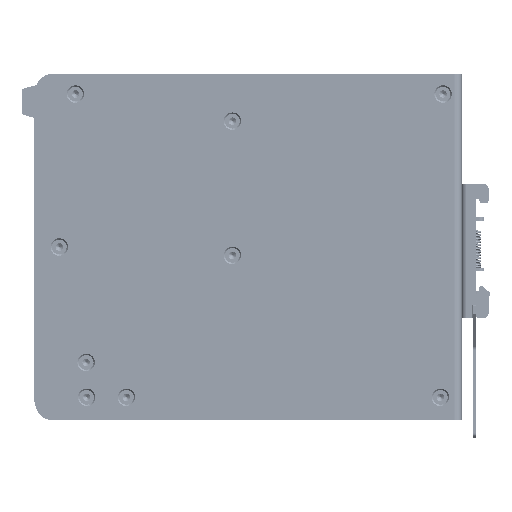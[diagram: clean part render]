
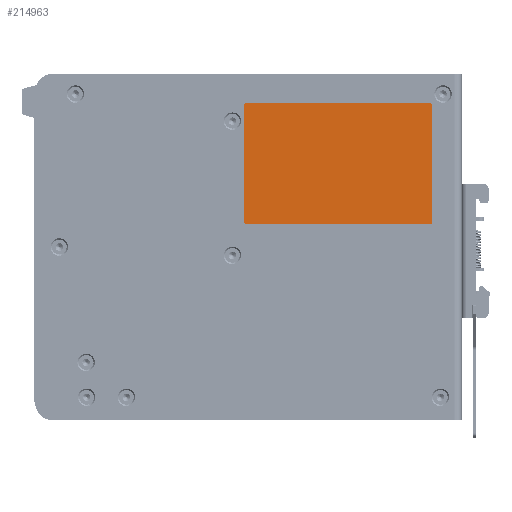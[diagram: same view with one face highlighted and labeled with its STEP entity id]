
A CAD part, front view. The second image highlights one B-rep face of the part: STEP entity #214963.
In plain terms, the highlighted planar face has unit normal (0, -1, 0).
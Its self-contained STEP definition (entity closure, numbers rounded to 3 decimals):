
#10000 = DIRECTION ( 'NONE',  ( 0., 1., 0. ) ) ;
#14277 = ORIENTED_EDGE ( 'NONE', *, *, #456223, .F. ) ;
#22636 = EDGE_CURVE ( 'NONE', #744572, #975812, #1089347, .T. ) ;
#26456 = VERTEX_POINT ( 'NONE', #448684 ) ;
#29635 = AXIS2_PLACEMENT_3D ( 'NONE', #856321, #848555, #1025026 ) ;
#50463 = CARTESIAN_POINT ( 'NONE',  ( -35., 0., -22. ) ) ;
#52338 = EDGE_CURVE ( 'NONE', #776582, #1042366, #681856, .T. ) ;
#57816 = LINE ( 'NONE', #458605, #1011155 ) ;
#66412 = ORIENTED_EDGE ( 'NONE', *, *, #971749, .F. ) ;
#69800 = CARTESIAN_POINT ( 'NONE',  ( 34.5, 0., 22. ) ) ;
#79659 = VECTOR ( 'NONE', #395368, 1000. ) ;
#85237 = CARTESIAN_POINT ( 'NONE',  ( -35., 0., -22. ) ) ;
#94363 = DIRECTION ( 'NONE',  ( -1., 0., 0. ) ) ;
#95995 = DIRECTION ( 'NONE',  ( 0., 0., 1. ) ) ;
#125434 = ORIENTED_EDGE ( 'NONE', *, *, #443872, .F. ) ;
#143740 = CARTESIAN_POINT ( 'NONE',  ( -35., 0., 22. ) ) ;
#165833 = CARTESIAN_POINT ( 'NONE',  ( -34.5, 0., 22.5 ) ) ;
#214963 = ADVANCED_FACE ( 'NONE', ( #314663 ), #895447, .F. ) ;
#218987 = ORIENTED_EDGE ( 'NONE', *, *, #238033, .F. ) ;
#238033 = EDGE_CURVE ( 'NONE', #975812, #844758, #632280, .T. ) ;
#256083 = DIRECTION ( 'NONE',  ( 1., 0., 0. ) ) ;
#258623 = CARTESIAN_POINT ( 'NONE',  ( -34.5, 0., -22.5 ) ) ;
#314663 = FACE_OUTER_BOUND ( 'NONE', #996000, .T. ) ;
#349543 = VERTEX_POINT ( 'NONE', #982347 ) ;
#358199 = DIRECTION ( 'NONE',  ( 0., 1., 0. ) ) ;
#365120 = AXIS2_PLACEMENT_3D ( 'NONE', #1112867, #850090, #936474 ) ;
#365912 = CARTESIAN_POINT ( 'NONE',  ( -34.5, 0., -22. ) ) ;
#370238 = CARTESIAN_POINT ( 'NONE',  ( 34.5, 0., 22. ) ) ;
#395368 = DIRECTION ( 'NONE',  ( 0., 0., 1. ) ) ;
#414454 = ORIENTED_EDGE ( 'NONE', *, *, #22636, .F. ) ;
#417356 = AXIS2_PLACEMENT_3D ( 'NONE', #365912, #358199, #797006 ) ;
#443872 = EDGE_CURVE ( 'NONE', #844758, #349543, #1038095, .T. ) ;
#448684 = CARTESIAN_POINT ( 'NONE',  ( 35., 0., 22. ) ) ;
#448878 = ORIENTED_EDGE ( 'NONE', *, *, #766750, .F. ) ;
#455997 = EDGE_CURVE ( 'NONE', #26456, #776582, #57816, .T. ) ;
#456223 = EDGE_CURVE ( 'NONE', #349543, #26456, #787387, .T. ) ;
#458605 = CARTESIAN_POINT ( 'NONE',  ( 35., 0., 22. ) ) ;
#491571 = VECTOR ( 'NONE', #256083, 1000. ) ;
#535858 = CARTESIAN_POINT ( 'NONE',  ( -34.5, 0., 22.5 ) ) ;
#536895 = AXIS2_PLACEMENT_3D ( 'NONE', #69800, #880639, #876787 ) ;
#541931 = VECTOR ( 'NONE', #94363, 1000. ) ;
#555889 = CARTESIAN_POINT ( 'NONE',  ( 34.5, 0., -22.5 ) ) ;
#605150 = VERTEX_POINT ( 'NONE', #258623 ) ;
#632280 = CIRCLE ( 'NONE', #365120, 0.5 ) ;
#638603 = DIRECTION ( 'NONE',  ( 0., 0., -1. ) ) ;
#664272 = ORIENTED_EDGE ( 'NONE', *, *, #455997, .F. ) ;
#675163 = CARTESIAN_POINT ( 'NONE',  ( 35., 0., -22. ) ) ;
#681856 = CIRCLE ( 'NONE', #29635, 0.5 ) ;
#744572 = VERTEX_POINT ( 'NONE', #85237 ) ;
#766750 = EDGE_CURVE ( 'NONE', #1042366, #605150, #1159625, .T. ) ;
#776582 = VERTEX_POINT ( 'NONE', #675163 ) ;
#787387 = CIRCLE ( 'NONE', #536895, 0.5 ) ;
#797006 = DIRECTION ( 'NONE',  ( 0., 0., 1. ) ) ;
#797952 = CIRCLE ( 'NONE', #417356, 0.5 ) ;
#844758 = VERTEX_POINT ( 'NONE', #535858 ) ;
#848555 = DIRECTION ( 'NONE',  ( 0., 1., 0. ) ) ;
#850090 = DIRECTION ( 'NONE',  ( 0., 1., 0. ) ) ;
#856321 = CARTESIAN_POINT ( 'NONE',  ( 34.5, 0., -22. ) ) ;
#876787 = DIRECTION ( 'NONE',  ( 0., 0., 1. ) ) ;
#880639 = DIRECTION ( 'NONE',  ( 0., 1., 0. ) ) ;
#895447 = PLANE ( 'NONE',  #1143218 ) ;
#936474 = DIRECTION ( 'NONE',  ( 0., 0., 1. ) ) ;
#971749 = EDGE_CURVE ( 'NONE', #605150, #744572, #797952, .T. ) ;
#975812 = VERTEX_POINT ( 'NONE', #143740 ) ;
#980177 = CARTESIAN_POINT ( 'NONE',  ( -34.5, 0., -22.5 ) ) ;
#982347 = CARTESIAN_POINT ( 'NONE',  ( 34.5, 0., 22.5 ) ) ;
#996000 = EDGE_LOOP ( 'NONE', ( #14277, #125434, #218987, #414454, #66412, #448878, #1102695, #664272 ) ) ;
#1011155 = VECTOR ( 'NONE', #638603, 1000. ) ;
#1025026 = DIRECTION ( 'NONE',  ( 0., 0., 1. ) ) ;
#1038095 = LINE ( 'NONE', #165833, #491571 ) ;
#1042366 = VERTEX_POINT ( 'NONE', #555889 ) ;
#1089347 = LINE ( 'NONE', #50463, #79659 ) ;
#1102695 = ORIENTED_EDGE ( 'NONE', *, *, #52338, .F. ) ;
#1112867 = CARTESIAN_POINT ( 'NONE',  ( -34.5, 0., 22. ) ) ;
#1143218 = AXIS2_PLACEMENT_3D ( 'NONE', #370238, #10000, #95995 ) ;
#1159625 = LINE ( 'NONE', #980177, #541931 ) ;
